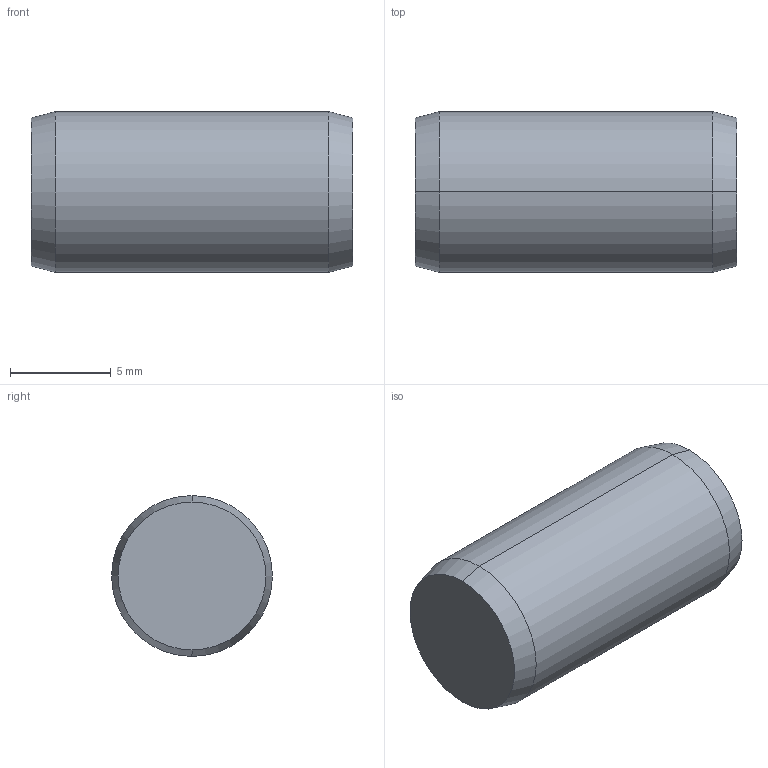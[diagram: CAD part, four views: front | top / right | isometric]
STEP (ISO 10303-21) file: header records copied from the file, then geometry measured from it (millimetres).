
FILE_DESCRIPTION (( 'STEP AP203' ), '1' );
FILE_NAME ('P1206.080-016.step', '2017-06-14T08:25:29', ( 'User' ), ( '' ), 'SwSTEP 2.0', 'SolidWorks 2009', '' );
FILE_SCHEMA (( 'CONFIG_CONTROL_DESIGN' ));
Length unit declared in the file: millimetre
Products named in the file (1): P1206.080-016
Bounding box: 16 x 8 x 8 mm (x, y, z)
Volume: 794.8 mm3; surface area: 486.8 mm2
Topology: 1 solids, 1 shells, 8 faces, 14 edges, 8 vertices
Faces by surface type: cone 4, cylinder 2, plane 2
Entity records: 271 total; most frequent: DIRECTION 40, CARTESIAN_POINT 31, ORIENTED_EDGE 28, AXIS2_PLACEMENT_3D 17, EDGE_CURVE 14, EDGE_LOOP 8, ADVANCED_FACE 8, VERTEX_POINT 8
